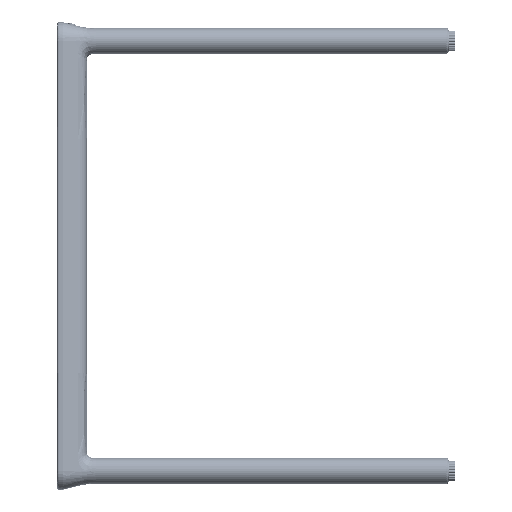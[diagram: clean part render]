
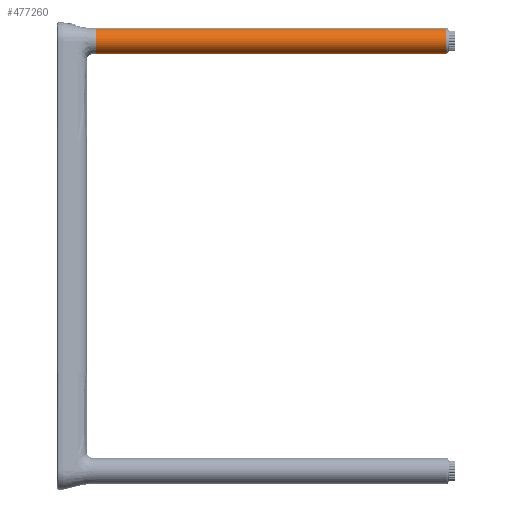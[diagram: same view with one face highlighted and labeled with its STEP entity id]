
A CAD part, left-side view. The second image highlights one B-rep face of the part: STEP entity #477260.
In plain terms, the highlighted cylindrical face has radius 22 mm (diameter 44 mm), a partial arc.
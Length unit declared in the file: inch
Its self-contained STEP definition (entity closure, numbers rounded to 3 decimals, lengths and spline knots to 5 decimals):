
#8740 = DIRECTION ( 'NONE',  ( 0., 1., 0. ) ) ;
#10922 = ORIENTED_EDGE ( 'NONE', *, *, #115346, .T. ) ;
#71259 = CARTESIAN_POINT ( 'NONE',  ( -121.27258, 15.89527, 45.8527 ) ) ;
#72172 = CARTESIAN_POINT ( 'NONE',  ( -120.98213, -7.72677, 45.03671 ) ) ;
#89837 = FACE_OUTER_BOUND ( 'NONE', #545002, .T. ) ;
#115346 = EDGE_CURVE ( 'NONE', #179787, #594942, #591270, .T. ) ;
#179787 = VERTEX_POINT ( 'NONE', #251419 ) ;
#210372 = VERTEX_POINT ( 'NONE', #600401 ) ;
#218312 = AXIS2_PLACEMENT_3D ( 'NONE', #381048, #539657, #909907 ) ;
#223617 = EDGE_CURVE ( 'NONE', #847171, #210372, #404746, .T. ) ;
#251419 = CARTESIAN_POINT ( 'NONE',  ( -121.56303, -7.72677, 46.66869 ) ) ;
#268250 = ORIENTED_EDGE ( 'NONE', *, *, #297944, .F. ) ;
#297944 = EDGE_CURVE ( 'NONE', #179787, #847171, #773110, .T. ) ;
#305976 = DIRECTION ( 'NONE',  ( 0., -1., 0. ) ) ;
#349622 = CARTESIAN_POINT ( 'NONE',  ( -120.98213, -7.72677, 45.03671 ) ) ;
#369112 = DIRECTION ( 'NONE',  ( 0.335, 0., -0.942 ) ) ;
#381048 = CARTESIAN_POINT ( 'NONE',  ( -121.27258, -7.72677, 45.8527 ) ) ;
#404746 = LINE ( 'NONE', #349622, #960724 ) ;
#440134 = CARTESIAN_POINT ( 'NONE',  ( -121.56303, 15.89527, 46.66869 ) ) ;
#465421 = CARTESIAN_POINT ( 'NONE',  ( -121.56303, -7.72677, 46.66869 ) ) ;
#467847 = AXIS2_PLACEMENT_3D ( 'NONE', #71259, #305976, #369112 ) ;
#470153 = DIRECTION ( 'NONE',  ( 0., 1., 0. ) ) ;
#477260 = ADVANCED_FACE ( 'NONE', ( #89837 ), #954343, .T. ) ;
#488829 = DIRECTION ( 'NONE',  ( 0., 1., 0. ) ) ;
#536516 = DIRECTION ( 'NONE',  ( -0.335, 0., 0.942 ) ) ;
#539657 = DIRECTION ( 'NONE',  ( 0., -1., 0. ) ) ;
#545002 = EDGE_LOOP ( 'NONE', ( #909701, #268250, #10922, #736303 ) ) ;
#591270 = LINE ( 'NONE', #465421, #922405 ) ;
#594942 = VERTEX_POINT ( 'NONE', #440134 ) ;
#600401 = CARTESIAN_POINT ( 'NONE',  ( -120.98213, 15.89527, 45.03671 ) ) ;
#634195 = CIRCLE ( 'NONE', #467847, 0.86614 ) ;
#736303 = ORIENTED_EDGE ( 'NONE', *, *, #772141, .T. ) ;
#764413 = CARTESIAN_POINT ( 'NONE',  ( -121.27258, -7.72677, 45.8527 ) ) ;
#768023 = AXIS2_PLACEMENT_3D ( 'NONE', #764413, #470153, #536516 ) ;
#772141 = EDGE_CURVE ( 'NONE', #594942, #210372, #634195, .T. ) ;
#773110 = CIRCLE ( 'NONE', #218312, 0.86614 ) ;
#847171 = VERTEX_POINT ( 'NONE', #72172 ) ;
#909701 = ORIENTED_EDGE ( 'NONE', *, *, #223617, .F. ) ;
#909907 = DIRECTION ( 'NONE',  ( 0.335, 0., -0.942 ) ) ;
#922405 = VECTOR ( 'NONE', #8740, 39.37008 ) ;
#954343 = CYLINDRICAL_SURFACE ( 'NONE', #768023, 0.86614 ) ;
#960724 = VECTOR ( 'NONE', #488829, 39.37008 ) ;
